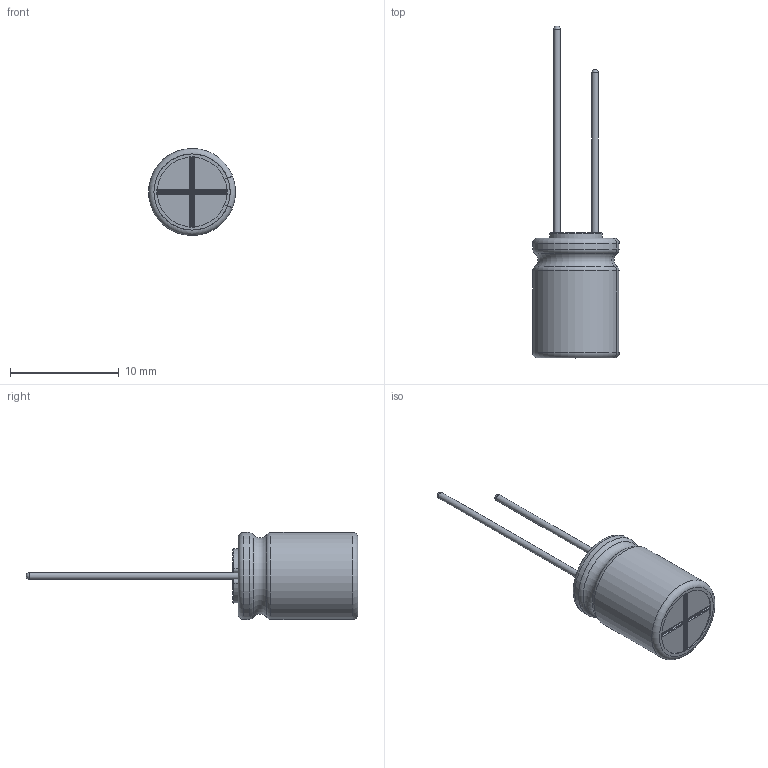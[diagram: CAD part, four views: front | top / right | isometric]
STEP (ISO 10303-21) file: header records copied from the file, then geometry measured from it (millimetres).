
FILE_DESCRIPTION(/* description */ (''),/* implementation_level */ '2;1');
FILE_NAME(/* name */ '8x11.5_Lead.stp',/* time_stamp */ '2017-09-05T13:55:10+09:00',/* author */ (''),/* organization */ (''),/* preprocessor_version */ 'ST-DEVELOPER v16',/* originating_system */ 'SIEMENS PLM Software NX 11.0',/* authorisation */ '');
FILE_SCHEMA (('AUTOMOTIVE_DESIGN { 1 0 10303 214 3 1 1 1 }'));
Length unit declared in the file: millimetre
Products named in the file (1): 8x11.5_Lead_0
Bounding box: 7.99 x 30.5 x 8 mm (x, y, z)
Volume: 551.2 mm3; surface area: 1039.5 mm2
Topology: 3 solids, 3 shells, 115 faces, 288 edges, 181 vertices
Faces by surface type: cylinder 44, torus 33, plane 28, sphere 6, bspline 4
Full cylindrical faces by diameter (mm): 0.6 x2, 7.8 x2
Entity records: 4020 total; most frequent: CARTESIAN_POINT 680, DIRECTION 664, ORIENTED_EDGE 544, AXIS2_PLACEMENT_3D 280, EDGE_CURVE 272, VERTEX_POINT 176, CIRCLE 160, EDGE_LOOP 128
